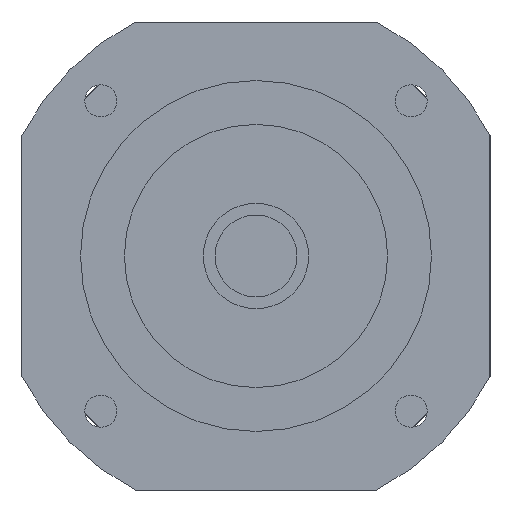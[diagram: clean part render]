
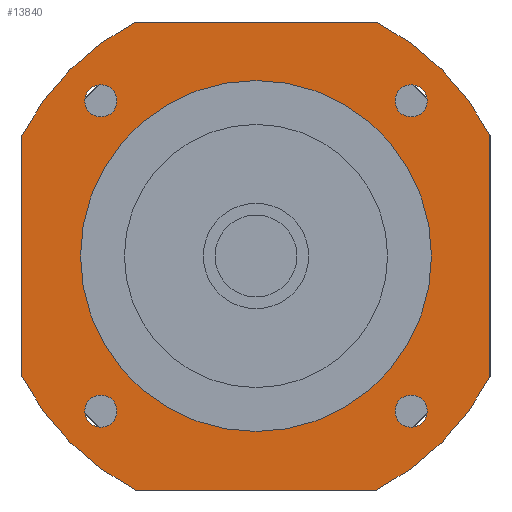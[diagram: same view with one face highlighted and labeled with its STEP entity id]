
A CAD part, left-side view. The second image highlights one B-rep face of the part: STEP entity #13840.
In plain terms, the highlighted planar face has unit normal (-1, 0, 0) as drawn and (0, 0, -1) by its records, which use the part's own axes.
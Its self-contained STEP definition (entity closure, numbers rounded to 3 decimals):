
#8680=CARTESIAN_POINT('',(40.,-20.616,-42.2));
#8690=VERTEX_POINT('',#8680);
#8740=CARTESIAN_POINT('',(0.,0.,
-42.2));
#8750=DIRECTION('',(0.,0.,-1.));
#8760=DIRECTION('',(1.,0.,0.));
#8770=AXIS2_PLACEMENT_3D('',#8740,#8750,#8760);
#8780=CIRCLE('',#8770,45.);
#8790=CARTESIAN_POINT('',(20.616,-40.,-42.2));
#8800=VERTEX_POINT('',#8790);
#8810=EDGE_CURVE('',#8690,#8800,#8780,.T.);
#9100=CARTESIAN_POINT('',(-20.616,-40.,-42.2));
#9110=VERTEX_POINT('',#9100);
#9160=CARTESIAN_POINT('',(0.,0.,
-42.2));
#9170=DIRECTION('',(0.,0.,-1.));
#9180=DIRECTION('',(1.,0.,0.));
#9190=AXIS2_PLACEMENT_3D('',#9160,#9170,#9180);
#9200=CIRCLE('',#9190,45.);
#9210=CARTESIAN_POINT('',(-40.,-20.616,-42.2));
#9220=VERTEX_POINT('',#9210);
#9230=EDGE_CURVE('',#9110,#9220,#9200,.T.);
#12370=CARTESIAN_POINT('',(23.767,-26.517,-42.2));
#12380=VERTEX_POINT('',#12370);
#12410=CARTESIAN_POINT('',(26.517,-26.517,-42.2));
#12420=DIRECTION('',(0.,0.,-1.));
#12430=DIRECTION('',(1.,0.,0.));
#12440=AXIS2_PLACEMENT_3D('',#12410,#12420,#12430);
#12450=CIRCLE('',#12440,2.75);
#12460=CARTESIAN_POINT('',(29.267,-26.517,-42.2));
#12470=VERTEX_POINT('',#12460);
#12480=EDGE_CURVE('',#12470,#12380,#12450,.T.);
#12600=CARTESIAN_POINT('',(40.,40.,-42.2));
#12610=DIRECTION('',(0.,0.,-1.));
#12620=DIRECTION('',(1.,0.,0.));
#12630=AXIS2_PLACEMENT_3D('',#12600,#12610,#12620);
#12640=PLANE('',#12630);
#12650=CARTESIAN_POINT('',(-26.517,-26.517,-42.2));
#12660=DIRECTION('',(0.,0.,-1.));
#12670=DIRECTION('',(0.,-1.,0.));
#12680=AXIS2_PLACEMENT_3D('',#12650,#12660,#12670);
#12690=CIRCLE('',#12680,2.75);
#12700=CARTESIAN_POINT('',(-26.517,-29.267,-42.2));
#12710=VERTEX_POINT('',#12700);
#12720=CARTESIAN_POINT('',(-26.517,-23.767,-42.2));
#12730=VERTEX_POINT('',#12720);
#12740=EDGE_CURVE('',#12710,#12730,#12690,.T.);
#12750=ORIENTED_EDGE('',*,*,#12740,.F.);
#12760=EDGE_CURVE('',#12730,#12710,#12690,.T.);
#12770=ORIENTED_EDGE('',*,*,#12760,.F.);
#12780=EDGE_LOOP('',(#12770,#12750));
#12790=FACE_BOUND('',#12780,.T.);
#12800=CARTESIAN_POINT('',(-26.517,26.517,-42.2));
#12810=DIRECTION('',(0.,0.,-1.));
#12820=DIRECTION('',(-1.,0.,0.));
#12830=AXIS2_PLACEMENT_3D('',#12800,#12810,#12820);
#12840=CIRCLE('',#12830,2.75);
#12850=CARTESIAN_POINT('',(-29.267,26.517,-42.2));
#12860=VERTEX_POINT('',#12850);
#12870=CARTESIAN_POINT('',(-23.767,26.517,-42.2));
#12880=VERTEX_POINT('',#12870);
#12890=EDGE_CURVE('',#12860,#12880,#12840,.T.);
#12900=ORIENTED_EDGE('',*,*,#12890,.F.);
#12910=EDGE_CURVE('',#12880,#12860,#12840,.T.);
#12920=ORIENTED_EDGE('',*,*,#12910,.F.);
#12930=EDGE_LOOP('',(#12920,#12900));
#12940=FACE_BOUND('',#12930,.T.);
#12950=CARTESIAN_POINT('',(26.517,26.517,-42.2));
#12960=DIRECTION('',(0.,0.,-1.));
#12970=DIRECTION('',(0.,1.,0.));
#12980=AXIS2_PLACEMENT_3D('',#12950,#12960,#12970);
#12990=CIRCLE('',#12980,2.75);
#13000=CARTESIAN_POINT('',(26.517,29.267,-42.2));
#13010=VERTEX_POINT('',#13000);
#13020=CARTESIAN_POINT('',(26.517,23.767,-42.2));
#13030=VERTEX_POINT('',#13020);
#13040=EDGE_CURVE('',#13010,#13030,#12990,.T.);
#13050=ORIENTED_EDGE('',*,*,#13040,.F.);
#13060=EDGE_CURVE('',#13030,#13010,#12990,.T.);
#13070=ORIENTED_EDGE('',*,*,#13060,.F.);
#13080=EDGE_LOOP('',(#13070,#13050));
#13090=FACE_BOUND('',#13080,.T.);
#13100=CARTESIAN_POINT('',(0.,0.,
-42.2));
#13110=DIRECTION('',(0.,0.,1.));
#13120=DIRECTION('',(0.,1.,0.));
#13130=AXIS2_PLACEMENT_3D('',#13100,#13110,#13120);
#13140=CIRCLE('',#13130,30.);
#13150=CARTESIAN_POINT('',(-30.,0.,-42.2));
#13160=VERTEX_POINT('',#13150);
#13170=CARTESIAN_POINT('',(30.,0.,-42.2));
#13180=VERTEX_POINT('',#13170);
#13190=EDGE_CURVE('',#13160,#13180,#13140,.T.);
#13200=ORIENTED_EDGE('',*,*,#13190,.T.);
#13210=CARTESIAN_POINT('',(0.,30.,-42.2));
#13220=VERTEX_POINT('',#13210);
#13230=EDGE_CURVE('',#13220,#13160,#13140,.T.);
#13240=ORIENTED_EDGE('',*,*,#13230,.T.);
#13250=EDGE_CURVE('',#13180,#13220,#13140,.T.);
#13260=ORIENTED_EDGE('',*,*,#13250,.T.);
#13270=EDGE_LOOP('',(#13260,#13240,#13200));
#13280=FACE_BOUND('',#13270,.T.);
#13290=CARTESIAN_POINT('',(-40.,40.,-42.2));
#13300=DIRECTION('',(1.,0.,0.));
#13310=VECTOR('',#13300,1000.);
#13320=LINE('',#13290,#13310);
#13330=CARTESIAN_POINT('',(-20.616,40.,-42.2));
#13340=VERTEX_POINT('',#13330);
#13350=CARTESIAN_POINT('',(20.616,40.,-42.2));
#13360=VERTEX_POINT('',#13350);
#13370=EDGE_CURVE('',#13340,#13360,#13320,.T.);
#13380=ORIENTED_EDGE('',*,*,#13370,.T.);
#13390=CARTESIAN_POINT('',(0.,0.,
-42.2));
#13400=DIRECTION('',(0.,0.,-1.));
#13410=DIRECTION('',(1.,0.,0.));
#13420=AXIS2_PLACEMENT_3D('',#13390,#13400,#13410);
#13430=CIRCLE('',#13420,45.);
#13440=CARTESIAN_POINT('',(-40.,20.616,-42.2));
#13450=VERTEX_POINT('',#13440);
#13460=EDGE_CURVE('',#13450,#13340,#13430,.T.);
#13470=ORIENTED_EDGE('',*,*,#13460,.T.);
#13480=CARTESIAN_POINT('',(-40.,-40.,-42.2));
#13490=DIRECTION('',(0.,1.,0.));
#13500=VECTOR('',#13490,1000.);
#13510=LINE('',#13480,#13500);
#13520=EDGE_CURVE('',#9220,#13450,#13510,.T.);
#13530=ORIENTED_EDGE('',*,*,#13520,.T.);
#13540=ORIENTED_EDGE('',*,*,#9230,.T.);
#13550=CARTESIAN_POINT('',(40.,-40.,-42.2));
#13560=DIRECTION('',(-1.,0.,0.));
#13570=VECTOR('',#13560,1000.);
#13580=LINE('',#13550,#13570);
#13590=EDGE_CURVE('',#8800,#9110,#13580,.T.);
#13600=ORIENTED_EDGE('',*,*,#13590,.T.);
#13610=ORIENTED_EDGE('',*,*,#8810,.T.);
#13620=CARTESIAN_POINT('',(40.,40.,-42.2));
#13630=DIRECTION('',(0.,-1.,0.));
#13640=VECTOR('',#13630,1000.);
#13650=LINE('',#13620,#13640);
#13660=CARTESIAN_POINT('',(40.,20.616,-42.2));
#13670=VERTEX_POINT('',#13660);
#13680=EDGE_CURVE('',#13670,#8690,#13650,.T.);
#13690=ORIENTED_EDGE('',*,*,#13680,.T.);
#13700=CARTESIAN_POINT('',(0.,0.,
-42.2));
#13710=DIRECTION('',(0.,0.,-1.));
#13720=DIRECTION('',(1.,0.,0.));
#13730=AXIS2_PLACEMENT_3D('',#13700,#13710,#13720);
#13740=CIRCLE('',#13730,45.);
#13750=EDGE_CURVE('',#13360,#13670,#13740,.T.);
#13760=ORIENTED_EDGE('',*,*,#13750,.T.);
#13770=EDGE_LOOP('',(#13760,#13690,#13610,#13600,#13540,#13530,#13470,
#13380));
#13780=FACE_OUTER_BOUND('',#13770,.T.);
#13790=ORIENTED_EDGE('',*,*,#12480,.F.);
#13800=EDGE_CURVE('',#12380,#12470,#12450,.T.);
#13810=ORIENTED_EDGE('',*,*,#13800,.F.);
#13820=EDGE_LOOP('',(#13810,#13790));
#13830=FACE_BOUND('',#13820,.T.);
#13840=ADVANCED_FACE('',(#12790,#12940,#13090,#13280,#13780,#13830),
#12640,.T.);
